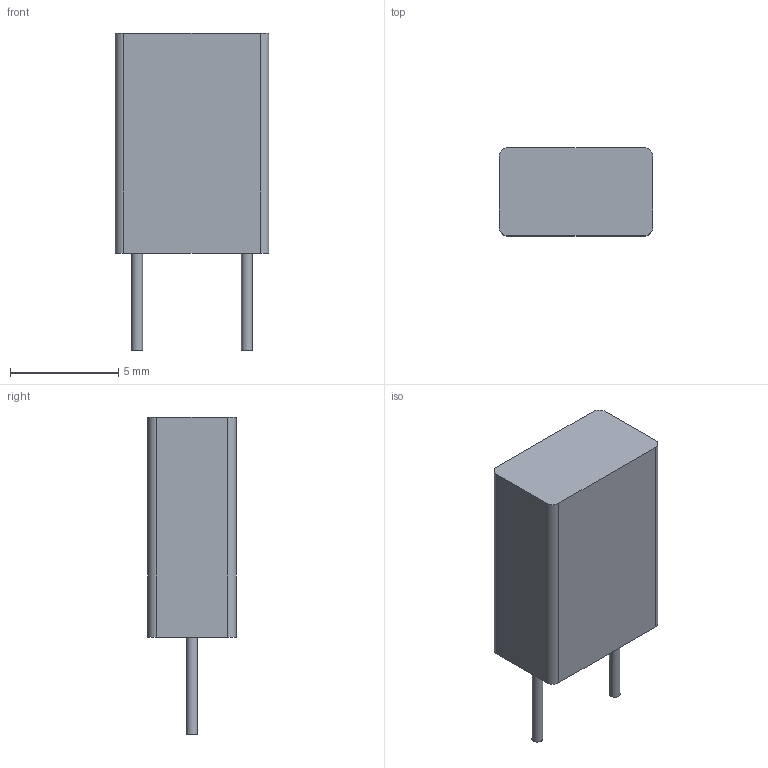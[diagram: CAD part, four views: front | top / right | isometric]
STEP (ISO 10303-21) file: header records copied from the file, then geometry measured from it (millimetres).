
FILE_DESCRIPTION(('Open CASCADE Model'),'2;1');
FILE_NAME('Open CASCADE Shape Model','2026-11-07T14:05:37',('Author'),( 'Open CASCADE'),'Open CASCADE STEP processor 7.9','Open CASCADE 7.9' ,'Unknown');
FILE_SCHEMA(('AUTOMOTIVE_DESIGN { 1 0 10303 214 1 1 1 1 }'));
Length unit declared in the file: millimetre
Products named in the file (1): Open CASCADE STEP translator 7.9 1
Bounding box: 7.11 x 4.07 x 14.66 mm (x, y, z)
Volume: 294.5 mm3; surface area: 292.2 mm2
Topology: 1 solids, 1 shells, 14 faces, 30 edges, 20 vertices
Faces by surface type: plane 8, cylinder 6
Full cylindrical faces by diameter (mm): 0.51 x2
Entity records: 804 total; most frequent: CARTESIAN_POINT 161, DIRECTION 126, LINE 66, VECTOR 66, ORIENTED_EDGE 60, PCURVE 60, DEFINITIONAL_REPRESENTATION 60, EDGE_CURVE 30
